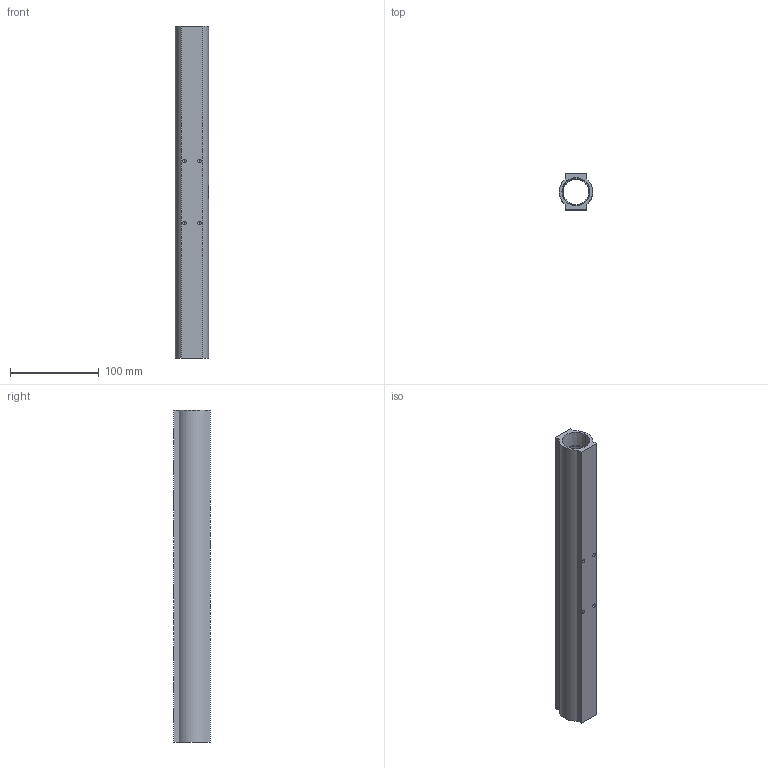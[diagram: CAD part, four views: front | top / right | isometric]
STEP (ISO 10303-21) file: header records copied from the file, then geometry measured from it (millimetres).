
FILE_DESCRIPTION (( 'STEP AP214' ), '1' );
FILE_NAME ('BWM10616R.STEP', '2022-03-15T05:22:59', ( '' ), ( '' ), 'SwSTEP 2.0', 'SolidWorks 2020', '' );
FILE_SCHEMA (( 'AUTOMOTIVE_DESIGN' ));
Length unit declared in the file: millimetre
Products named in the file (1): BWM10616R
Bounding box: 37.44 x 41 x 375 mm (x, y, z)
Volume: 206039.6 mm3; surface area: 87147.5 mm2
Topology: 1 solids, 1 shells, 220 faces, 589 edges, 386 vertices
Faces by surface type: plane 100, bspline 46, cylinder 42, cone 32
Entity records: 12427 total; most frequent: CARTESIAN_POINT 5420, ORIENTED_EDGE 1162, DIRECTION 785, EDGE_CURVE 581, VERTEX_POINT 386, VECTOR 287, LINE 287, EDGE_LOOP 265
